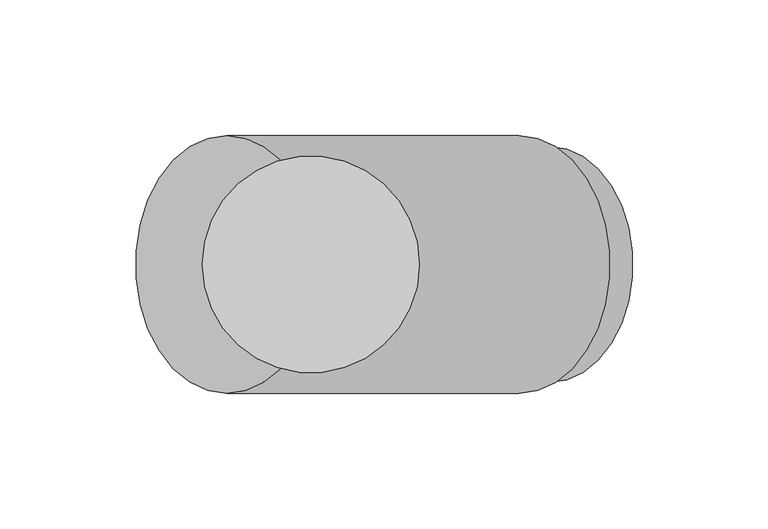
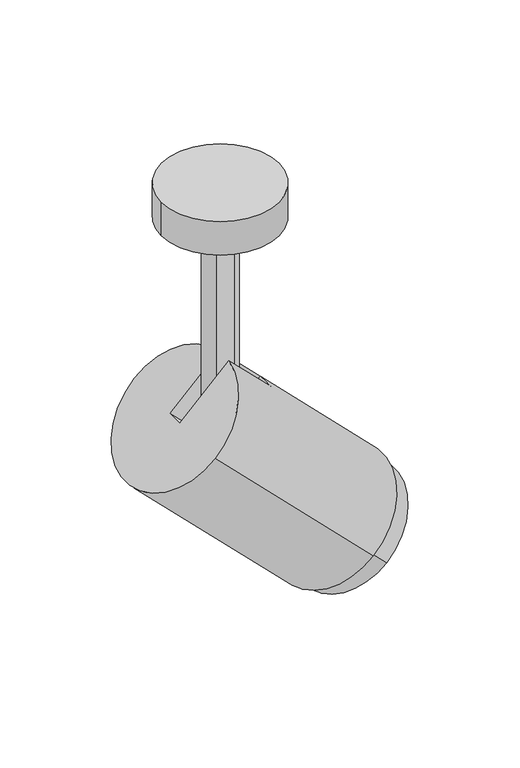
"""IFC4 building model written with IfcOpenShell, lengths in millimetres: light fixture geometry, GENILED_Светильник светодиодный_Track Classic Zoom : Track Classic Zoom 10Вт 90Ra_60x25_Чашка."""

import ifcopenshell
import ifcopenshell.guid

model = None  # the IFC model being written
_history = None  # IfcOwnerHistory: only IFC2X3 demands one
_inside = {}  # id of a spatial element -> (the spatial element, [elements in it])
_under = {}  # id of a project, library or spatial element -> (it, [spatial elements below it])
_declared = {}  # id of a project -> (the project, [libraries it declares])
_typed = {}  # id of a type object -> (the type object, [elements of that type])
_made_of = {}  # id of a material, layer set ... -> (it, [elements and type objects made of it])


def new_model(schema):
    """Start an empty IFC model of exactly this schema.

    Asked for "IFC4X3", IfcOpenShell would pick the latest addendum, in which some entities
    have other attributes; the version numbers below select the first issue.
    IFC2X3 requires an IfcOwnerHistory on every rooted entity: one is made here for all.
    """
    global model, _history
    if schema == "IFC4X3":
        model = ifcopenshell.file(schema_version=(4, 3, 0, 0))
    else:
        model = ifcopenshell.file(schema=schema)
    _inside.clear()
    _under.clear()
    _declared.clear()
    _typed.clear()
    _made_of.clear()
    _history = None
    if model.schema == "IFC2X3":
        org = make("IfcOrganization", Name="unknown")
        user = make(
            "IfcPersonAndOrganization",
            ThePerson=make("IfcPerson", FamilyName="unknown"),
            TheOrganization=org,
        )
        app = make(
            "IfcApplication",
            ApplicationDeveloper=org,
            Version="unknown",
            ApplicationFullName="unknown",
            ApplicationIdentifier="unknown",
        )
        _history = make(
            "IfcOwnerHistory",
            OwningUser=user,
            OwningApplication=app,
            ChangeAction="ADDED",
            CreationDate=0,
        )
    return model


def make(cls, **values):
    """One entity of the class cls with the attributes given. An attribute that is None is left unset."""
    return model.create_entity(
        cls, **{name: value for name, value in values.items() if value is not None}
    )


def rooted(cls, **values):
    """An entity with a GlobalId (a new one), such as an element, a storey or a relation."""
    return make(cls, GlobalId=ifcopenshell.guid.new(), OwnerHistory=_history, **values)


def si_unit(unit_type, name, prefix=None):
    """IfcSIUnit, for example si_unit("LENGTHUNIT", "METRE", prefix="MILLI")."""
    return make("IfcSIUnit", UnitType=unit_type, Prefix=prefix, Name=name)


def assignment(units):
    """IfcUnitAssignment: the units of a project."""
    return None if units is None else make("IfcUnitAssignment", Units=units)


def point(xyz):
    """IfcCartesianPoint."""
    return None if xyz is None else make("IfcCartesianPoint", Coordinates=xyz)


def direction(xyz):
    """IfcDirection."""
    return None if xyz is None else make("IfcDirection", DirectionRatios=xyz)


def frame(location, z_axis=None, x_axis=None):
    """IfcAxis2Placement3D, a coordinate frame: its origin and axes. An axis left out is left unset."""
    return make(
        "IfcAxis2Placement3D",
        Location=point(location),
        Axis=direction(z_axis),
        RefDirection=direction(x_axis),
    )


def frame_2d(location, x_axis=None):
    """IfcAxis2Placement2D, a coordinate frame in the plane: its origin and x axis."""
    return make(
        "IfcAxis2Placement2D", Location=point(location), RefDirection=direction(x_axis)
    )


def origin():
    """The frame at (0, 0, 0) with its axes left unset."""
    return frame((0.0, 0.0, 0.0))


def origin_2d():
    """The frame at (0, 0) in the plane with its x axis left unset."""
    return frame_2d((0.0, 0.0))


def place(relative_to, where):
    """IfcLocalPlacement: puts the frame where relative to a parent placement (None: the world)."""
    return make(
        "IfcLocalPlacement", PlacementRelTo=relative_to, RelativePlacement=where
    )


def context(
    kind, dimensions, precision=None, world=None, true_north=None, identifier=None
):
    """IfcGeometricRepresentationContext, for example the 3D "Model" context."""
    return make(
        "IfcGeometricRepresentationContext",
        ContextIdentifier=identifier,
        ContextType=kind,
        CoordinateSpaceDimension=dimensions,
        Precision=precision,
        WorldCoordinateSystem=world,
        TrueNorth=true_north,
    )


def project(units=None, contexts=None):
    """IfcProject with its units and contexts."""
    return rooted(
        "IfcProject",
        Name="project",
        RepresentationContexts=contexts,
        UnitsInContext=assignment(units),
    )


def spatial(cls, under=None, at=None, **own):
    """A site, building, storey or space (cls), placed at a placement, below another one or the project."""
    s = rooted(cls, ObjectPlacement=at, **own)
    if under is not None:
        _under.setdefault(under.id(), (under, []))[1].append(s)
    return s


def polyline(points):
    """IfcPolyline through the points."""
    return make("IfcPolyline", Points=[point(p) for p in points])


def circle_curve(where, radius):
    """IfcCircle in the frame where."""
    return make("IfcCircle", Position=where, Radius=radius)


def trimmed(basis, trim1, trim2, sense, master):
    """IfcTrimmedCurve: the piece of a basis curve between two trims."""
    return make(
        "IfcTrimmedCurve",
        BasisCurve=basis,
        Trim1=trim1,
        Trim2=trim2,
        SenseAgreement=sense,
        MasterRepresentation=master,
    )


def segment(curve, same_sense, transition):
    """IfcCompositeCurveSegment."""
    return make(
        "IfcCompositeCurveSegment",
        Transition=transition,
        SameSense=same_sense,
        ParentCurve=curve,
    )


def composite_curve(segments, self_intersect=None):
    """IfcCompositeCurve: segments joined end to end."""
    return make("IfcCompositeCurve", Segments=segments, SelfIntersect=self_intersect)


def outline(outer, holes=None, kind="AREA"):
    """IfcArbitraryClosedProfileDef: a profile drawn as a closed curve; with holes, ...WithVoids."""
    if holes is None:
        return make("IfcArbitraryClosedProfileDef", ProfileType=kind, OuterCurve=outer)
    return make(
        "IfcArbitraryProfileDefWithVoids",
        ProfileType=kind,
        OuterCurve=outer,
        InnerCurves=holes,
    )


def extrude(swept, where, along, depth):
    """IfcExtrudedAreaSolid: the profile swept, set in the frame where, extruded along a direction by depth."""
    return make(
        "IfcExtrudedAreaSolid",
        SweptArea=swept,
        Position=where,
        ExtrudedDirection=direction(along),
        Depth=depth,
    )


def shape(context_of_items, identifier, shape_type, items):
    """IfcShapeRepresentation: the items that make up one representation, for example the "Body"."""
    return make(
        "IfcShapeRepresentation",
        ContextOfItems=context_of_items,
        RepresentationIdentifier=identifier,
        RepresentationType=shape_type,
        Items=items,
    )


def source(mapping_origin, context_of_items, identifier, shape_type, items):
    """IfcRepresentationMap: a shape defined once, which mapped items show again and again."""
    return make(
        "IfcRepresentationMap",
        MappingOrigin=mapping_origin,
        MappedRepresentation=shape(context_of_items, identifier, shape_type, items),
    )


def transform(
    local_origin,
    x_axis=None,
    y_axis=None,
    z_axis=None,
    scale=None,
    scale2=None,
    scale3=None,
    uniform=True,
):
    """IfcCartesianTransformationOperator3D, or its non-uniform kind. x_axis, y_axis, z_axis: its Axis1, 2, 3."""
    if uniform:
        return make(
            "IfcCartesianTransformationOperator3D",
            Axis1=direction(x_axis),
            Axis2=direction(y_axis),
            LocalOrigin=point(local_origin),
            Scale=scale,
            Axis3=direction(z_axis),
        )
    return make(
        "IfcCartesianTransformationOperator3DnonUniform",
        Axis1=direction(x_axis),
        Axis2=direction(y_axis),
        LocalOrigin=point(local_origin),
        Scale=scale,
        Axis3=direction(z_axis),
        Scale2=scale2,
        Scale3=scale3,
    )


def mapped(mapping_source, mapping_target):
    """IfcMappedItem: shows the shape of a source again, moved by a transform."""
    return make(
        "IfcMappedItem", MappingSource=mapping_source, MappingTarget=mapping_target
    )


def made_of(thing, what):
    """Note that an element or type object is made of a material, layer set ...; save() writes the relation."""
    if what is not None:
        _made_of.setdefault(what.id(), (what, []))[1].append(thing)
    return thing


def element(
    cls,
    number,
    at=None,
    inside=None,
    cuts=None,
    type_object=None,
    material=None,
    context=None,
    identifier="Body",
    shape_type=None,
    held_by="IfcProductDefinitionShape",
    body=None,
    shapes=None,
    **own,
):
    """One element of the class cls, such as IfcWall. Its Tag is "e" and its number.

    at: its placement. inside: the storey or other place that contains it. cuts: it is an
    opening in that element (IfcRelVoidsElement). A single representation is given by context,
    identifier, shape_type and body (its items); several are given by shapes. held_by: the class
    of the entity that holds the representations. save() writes the other relations.
    """
    e = rooted(cls, Tag="e%d" % number, ObjectPlacement=at, **own)
    if body is not None:
        shapes = [shape(context, identifier, shape_type, body)]
    if shapes is not None:
        e.Representation = make(held_by, Representations=shapes)
    if inside is not None:
        _inside.setdefault(inside.id(), (inside, []))[1].append(e)
    if cuts is not None:
        rooted(
            "IfcRelVoidsElement", RelatingBuildingElement=cuts, RelatedOpeningElement=e
        )
    if type_object is not None:
        _typed.setdefault(type_object.id(), (type_object, []))[1].append(e)
    return made_of(e, material)


def aggregate(whole, parts):
    """IfcRelAggregates: a whole, such as a stair, and the parts it consists of."""
    return rooted("IfcRelAggregates", RelatingObject=whole, RelatedObjects=parts)


def save(model, path):
    """Write the relations noted so far, then the file.

    IfcRelAggregates (storeys below a building ...), IfcRelContainedInSpatialStructure (elements
    in a storey), IfcRelDefinesByType, IfcRelAssociatesMaterial and IfcRelDeclares: one each for
    every whole, place, type object, material and project.
    """
    for whole, parts in _under.values():
        aggregate(whole, parts)
    for where, things in _inside.values():
        rooted(
            "IfcRelContainedInSpatialStructure",
            RelatedElements=things,
            RelatingStructure=where,
        )
    for kind, things in _typed.values():
        rooted("IfcRelDefinesByType", RelatedObjects=things, RelatingType=kind)
    for what, things in _made_of.values():
        rooted("IfcRelAssociatesMaterial", RelatedObjects=things, RelatingMaterial=what)
    for by, libraries in _declared.values():
        rooted("IfcRelDeclares", RelatingContext=by, RelatedDefinitions=libraries)
    model.write(path)


def plane_surface(at):
    """IfcPlane: the flat surface through the origin of the frame at, square to its z axis."""
    return make("IfcPlane", Position=at)


def cylinder_surface(at, radius):
    """IfcCylindricalSurface: all points at the distance radius from the z axis of the frame at."""
    return make("IfcCylindricalSurface", Position=at, Radius=radius)


def revolved_surface(curve, axis_point, axis_direction):
    """IfcSurfaceOfRevolution: the curve turned about the line through axis_point along axis_direction."""
    return make(
        "IfcSurfaceOfRevolution",
        SweptCurve=make("IfcArbitraryOpenProfileDef", ProfileType="CURVE", Curve=curve),
        AxisPosition=make("IfcAxis1Placement", Location=point(axis_point), Axis=direction(axis_direction)),
    )


def advanced_brep(points, edges, surfaces, faces):
    """IfcAdvancedBrep: a solid bounded by faces that lie on surfaces and meet in shared edges.

    An edge is (start, end): straight between two places in points (the first is 0);
    or (start, end, curve); or (start, end, curve, False) where it runs against its curve.
    A face is (place in surfaces, loops), or (place, loops, False) where it looks against
    its surface's normal. A loop lists edges by number (the first is 1), with a minus sign
    where the edge is run from its end to its start. The first loop is the outer one.
    """
    corners = [point(p) for p in points]
    vertices = [make("IfcVertexPoint", VertexGeometry=c) for c in corners]
    made = []
    for start, end, *more in edges:
        made.append(
            make(
                "IfcEdgeCurve",
                EdgeStart=vertices[start],
                EdgeEnd=vertices[end],
                EdgeGeometry=more[0] if more else make("IfcPolyline", Points=[corners[start], corners[end]]),
                SameSense=more[1] if len(more) > 1 else True,
            )
        )
    hull = []
    for where, loops, *sense in faces:
        bounds = []
        for j, loop in enumerate(loops):
            ring = [make("IfcOrientedEdge", EdgeElement=made[abs(k) - 1], Orientation=k > 0) for k in loop]
            bounds.append(
                make(
                    "IfcFaceOuterBound" if j == 0 else "IfcFaceBound",
                    Bound=make("IfcEdgeLoop", EdgeList=ring),
                    Orientation=True,
                )
            )
        hull.append(make("IfcAdvancedFace", Bounds=bounds, FaceSurface=surfaces[where], SameSense=sense[0] if sense else True))
    return make("IfcAdvancedBrep", Outer=make("IfcClosedShell", CfsFaces=hull))


def light_fixture_24229492(model_context):
    return source(origin(), model_context, "Body", "SolidModel", [
        advanced_brep(
        [(87.8580176, -43.5, -277.1955897), (87.8580176, 43.5, -277.1955897), (87.8580176, -41.5, -277.1955897), (87.8580176, 41.5, -277.1955897), (76.5443091, 43.5, -265.8818812), (76.5443091, -43.5, -265.8818812), (76.5443091, 41.5, -265.8818812), (76.5443091, -41.5, -265.8818812), (76.5443091, -47.5, -265.8818812), (76.5443091, 47.5, -265.8818812), (-30.9359217, 47.5, -158.4016504), (-30.9359217, -47.5, -158.4016504), (2.3826167, -6.0, -125.083112), (-30.9359217, -6.0, -158.4016504), (-30.9359217, 6.0, -158.4016504), (2.3826167, 6.0, -125.083112), (30.666888, 6.0, -153.3673833), (30.9359217, 0.0, -153.0983496), (30.666888, -6.0, -153.3673833), (-2.6516504, -6.0, -186.6859217), (-2.6516504, 6.0, -186.6859217)],
        [
            (0, 1, circle_curve(frame((87.8580176, 0.0, -277.1955897), z_axis=(0.7071067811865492, 0.0, -0.7071067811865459), x_axis=(0.0, 1.0, 0.0)), 43.5)),
            (1, 0, circle_curve(frame((87.8580176, 0.0, -277.1955897), z_axis=(0.7071067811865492, 0.0, -0.7071067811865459), x_axis=(0.0, 1.0, 0.0)), 43.5)),
            (2, 3, circle_curve(frame((87.8580176, 0.0, -277.1955897), z_axis=(-0.7071067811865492, 0.0, 0.7071067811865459), x_axis=(0.0, 1.0, 0.0)), 41.5)),
            (3, 2, circle_curve(frame((87.8580176, 0.0, -277.1955897), z_axis=(-0.7071067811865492, 0.0, 0.7071067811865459), x_axis=(0.0, 1.0, 0.0)), 41.5)),
            (1, 4),
            (4, 5, circle_curve(frame((76.5443091, 0.0, -265.8818812), z_axis=(0.7071067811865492, 0.0, -0.7071067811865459), x_axis=(0.0, 1.0, 0.0)), 43.5)),
            (5, 0),
            (5, 4, circle_curve(frame((76.5443091, 0.0, -265.8818812), z_axis=(0.7071067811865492, 0.0, -0.7071067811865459), x_axis=(0.0, 1.0, 0.0)), 43.5)),
            (3, 6),
            (6, 7, circle_curve(frame((76.5443091, 0.0, -265.8818812), z_axis=(-0.7071067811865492, 0.0, 0.7071067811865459), x_axis=(0.0, 1.0, 0.0)), 41.5)),
            (7, 2),
            (7, 6, circle_curve(frame((76.5443091, 0.0, -265.8818812), z_axis=(-0.7071067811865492, 0.0, 0.7071067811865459), x_axis=(0.0, 1.0, 0.0)), 41.5)),
            (8, 9, circle_curve(frame((76.5443091, 0.0, -265.8818812), z_axis=(0.7071067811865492, 0.0, -0.7071067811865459), x_axis=(0.0, 1.0, 0.0)), 47.5)),
            (9, 8, circle_curve(frame((76.5443091, 0.0, -265.8818812), z_axis=(0.7071067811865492, 0.0, -0.7071067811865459), x_axis=(0.0, 1.0, 0.0)), 47.5)),
            (10, 11, circle_curve(frame((-30.9359217, 0.0, -158.4016504), z_axis=(-0.7071067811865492, 0.0, 0.7071067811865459), x_axis=(0.0, 1.0, 0.0)), 47.5)),
            (11, 12, circle_curve(frame((-30.9359217, 0.0, -158.4016504), z_axis=(-0.7071067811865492, 0.0, 0.7071067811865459), x_axis=(0.0, 1.0, 0.0)), 47.5)),
            (12, 13),
            (13, 14),
            (14, 15),
            (15, 10, circle_curve(frame((-30.9359217, 0.0, -158.4016504), z_axis=(-0.7071067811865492, 0.0, 0.7071067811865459), x_axis=(0.0, 1.0, 0.0)), 47.5)),
            (9, 10),
            (15, 16),
            (16, 17, circle_curve(frame((-2.6516504, 0.0, -186.6859217), z_axis=(0.7071067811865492, 0.0, -0.7071067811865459), x_axis=(0.0, 1.0, 0.0)), 47.5)),
            (17, 18, circle_curve(frame((-2.6516504, 0.0, -186.6859217), z_axis=(0.7071067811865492, 0.0, -0.7071067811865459), x_axis=(0.0, 1.0, 0.0)), 47.5)),
            (18, 12),
            (11, 8),
            (13, 19),
            (19, 20),
            (20, 14),
            (18, 19),
            (16, 20),
        ],
        [
            plane_surface(frame((87.8580176, 43.5, -277.1955897), z_axis=(0.7071067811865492, 0.0, -0.7071067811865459), x_axis=(0.7071067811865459, 0.0, 0.7071067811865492))),
            cylinder_surface(frame((87.8580176, 0.0, -277.1955897), z_axis=(-0.7071067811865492, 0.0, 0.7071067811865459), x_axis=(0.0, 1.0, 0.0)), 43.5),
            revolved_surface(polyline([(87.85801760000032, 41.5, -277.19558969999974), (76.54430910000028, 41.5, -265.8818811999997)]), (-30.9359217, 0.0, -158.4016504), (0.7071067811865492, 0.0, -0.7071067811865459)),
            plane_surface(frame((76.5443091, 47.5, -265.8818812), z_axis=(0.7071067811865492, 0.0, -0.7071067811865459), x_axis=(0.7071067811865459, 0.0, 0.7071067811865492))),
            plane_surface(frame((-30.9359217, 47.5, -158.4016504), z_axis=(-0.7071067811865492, 0.0, 0.7071067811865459), x_axis=(-0.7071067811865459, 0.0, -0.7071067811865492))),
            cylinder_surface(frame((76.5443091, 0.0, -265.8818812), z_axis=(-0.7071067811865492, 0.0, 0.7071067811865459), x_axis=(0.0, 1.0, 0.0)), 47.5),
            plane_surface(frame((-30.9359217, -6.0, -158.4016504), z_axis=(0.7071067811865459, 0.0, 0.7071067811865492), x_axis=(0.0, 1.0, 0.0))),
            plane_surface(frame((2.6516504, -6.0, -124.8140783), z_axis=(0.0, 1.0000000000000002, 0.0), x_axis=(-0.7071067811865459, 0.0, -0.7071067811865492))),
            plane_surface(frame((30.9359217, -6.0, -153.0983496), z_axis=(-0.7071067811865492, 0.0, 0.7071067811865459), x_axis=(-0.7071067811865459, 0.0, -0.7071067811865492))),
            plane_surface(frame((30.9359217, 6.0, -153.0983496), z_axis=(0.0, -1.0000000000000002, 0.0), x_axis=(-0.7071067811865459, 0.0, -0.7071067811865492))),
        ],
        [
            (0, [[1, 2], [3, 4]]),
            (1, [[-2, 5, 6, 7]]),
            (1, [[-1, -7, 8, -5]]),
            (2, [[-4, 9, 10, 11]]),
            (2, [[-3, -11, 12, -9]]),
            (3, [[-10, -12]]),
            (3, [[13, 14], [-6, -8]]),
            (4, [[15, 16, 17, 18, 19, 20]]),
            (5, [[-14, 21, -20, 22, 23, 24, 25, -16, 26]]),
            (5, [[-13, -26, -15, -21]]),
            (6, [[27, 28, 29, -18]]),
            (7, [[-27, -17, -25, 30]]),
            (8, [[-28, -30, -24, -23, 31]]),
            (9, [[-29, -31, -22, -19]]),
        ],
    ),
        advanced_brep(
        [(6.0, 6.0, -155.75), (6.0, -6.0, -155.75), (-6.0, -6.0, -155.75), (-6.0, 6.0, -155.75), (-6.0, 6.0, -30.0), (6.0, 6.0, -30.0), (6.0, -6.0, -30.0), (-6.0, -6.0, -30.0), (-15.0, 0.0, -30.0), (15.0, 0.0, -30.0), (15.0, 0.0, -24.0), (-15.0, 0.0, -24.0)],
        [
            (0, 1, circle_curve(frame((6.0, 0.0, -155.75), z_axis=(0.0, 0.0, -1.0), x_axis=(1.0, 0.0, 0.0)), 6.0)),
            (1, 2),
            (2, 3, circle_curve(frame((-6.0, 0.0, -155.75), z_axis=(0.0, 0.0, -1.0), x_axis=(1.0, 0.0, 0.0)), 6.0)),
            (3, 0),
            (3, 4),
            (4, 5),
            (5, 0),
            (1, 6),
            (6, 7),
            (7, 2),
            (7, 4, circle_curve(frame((-6.0, 0.0, -30.0), z_axis=(0.0, 0.0, -1.0), x_axis=(1.0, 0.0, 0.0)), 6.0)),
            (5, 6, circle_curve(frame((6.0, 0.0, -30.0), z_axis=(0.0, 0.0, -1.0), x_axis=(1.0, 0.0, 0.0)), 6.0)),
            (8, 9, circle_curve(frame((0.0, 0.0, -30.0), z_axis=(0.0, 0.0, -1.0), x_axis=(1.0, 0.0, 0.0)), 15.0)),
            (9, 8, circle_curve(frame((0.0, 0.0, -30.0), z_axis=(0.0, 0.0, -1.0), x_axis=(1.0, 0.0, 0.0)), 15.0)),
            (10, 11, circle_curve(frame((0.0, 0.0, -24.0), z_axis=(0.0, 0.0, -1.0), x_axis=(1.0, 0.0, 0.0)), 15.0)),
            (11, 8),
            (9, 10),
            (11, 10, circle_curve(frame((0.0, 0.0, -24.0), z_axis=(0.0, 0.0, -1.0), x_axis=(1.0, 0.0, 0.0)), 15.0)),
        ],
        [
            plane_surface(frame((-6.0, 6.0, -155.75), z_axis=(0.0, 0.0, -1.0), x_axis=(1.0, 0.0, 0.0))),
            plane_surface(frame((6.0, 6.0, -30.0), z_axis=(0.0, 1.0, 0.0), x_axis=(0.0, 0.0, -1.0))),
            plane_surface(frame((-6.0, -6.0, -30.0), z_axis=(0.0, -1.0, 0.0), x_axis=(0.0, 0.0, -1.0))),
            cylinder_surface(frame((-6.0, 0.0, -155.75), z_axis=(0.0, 0.0, 1.0), x_axis=(1.0, 0.0, 0.0)), 6.0),
            cylinder_surface(frame((6.0, 0.0, -155.75), z_axis=(0.0, 0.0, 1.0), x_axis=(1.0, 0.0, 0.0)), 6.0),
            plane_surface(frame((15.0, 0.0, -30.0), z_axis=(0.0, 0.0, -1.0), x_axis=(0.0, -1.0, 0.0))),
            cylinder_surface(frame((0.0, 0.0, -30.0), z_axis=(0.0, 0.0, 1.0), x_axis=(1.0, 0.0, 0.0)), 15.0),
            plane_surface(frame((15.0, 0.0, -24.0), z_axis=(0.0, 0.0, 1.0), x_axis=(0.0, 1.0, 0.0))),
        ],
        [
            (0, [[1, 2, 3, 4]]),
            (1, [[-4, 5, 6, 7]]),
            (2, [[-2, 8, 9, 10]]),
            (3, [[-3, -10, 11, -5]]),
            (4, [[-1, -7, 12, -8]]),
            (5, [[13, 14], [-6, -11, -9, -12]]),
            (6, [[15, 16, -14, 17]]),
            (6, [[18, -17, -13, -16]]),
            (7, [[-15, -18]]),
        ],
    ),
        extrude(outline(composite_curve([segment(trimmed(circle_curve(origin_2d(), 40.0), [point((-40.0, 0.0))], [point((40.0, 0.0))], False, "CARTESIAN"), True, "CONTINUOUS"), segment(trimmed(circle_curve(origin_2d(), 40.0), [point((40.0, 0.0))], [point((-40.0, 0.0))], False, "CARTESIAN"), True, "CONTINUOUS")], self_intersect=False)), frame((0.0, 0.0, -24.0), z_axis=(0.0, 0.0, 1.0), x_axis=(1.0, 0.0, 0.0)), (0.0, 0.0, 1.0), 24.0),
    ])


if __name__ == "__main__":
    model = new_model("IFC4")
    model_context = context("Model", 3, world=origin())
    ifc_project = project(units=[si_unit("LENGTHUNIT", "METRE", prefix="MILLI")], contexts=[model_context])
    site = spatial("IfcSite", under=ifc_project)
    building = spatial("IfcBuilding", under=site)
    placement = place(None, origin())
    light_fixture_shape = light_fixture_24229492(model_context)
    element("IfcLightFixture", 1, ObjectType="GENILED_Светильник светодиодный_Track Classic Zoom : Track Classic Zoom 10Вт 90Ra_60x25_Чашка", at=placement, inside=building, context=model_context, shape_type="MappedRepresentation", body=[
        mapped(light_fixture_shape, transform((0.0, 0.0, 0.0), x_axis=(1.0, 0.0, 0.0), y_axis=(0.0, 1.0, 0.0), z_axis=(0.0, 0.0, 1.0))),
    ])
    save(model, "model.ifc")
